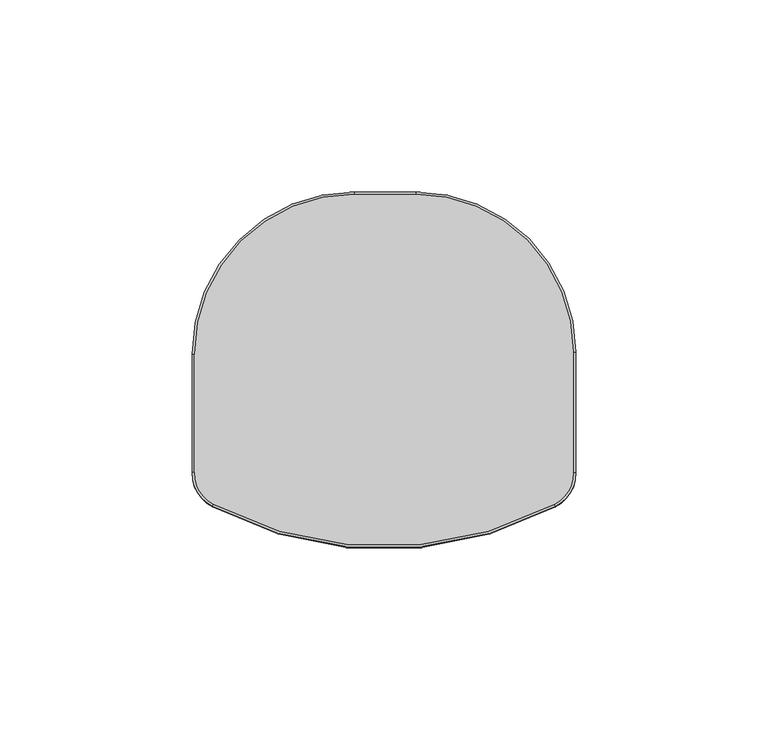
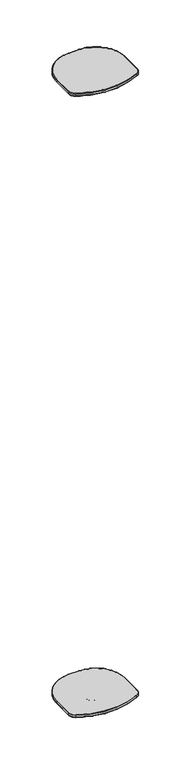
"""IFC4 building model written with IfcOpenShell, lengths in millimetres: proxy geometry, TS-C 50-1000_T-EN54 : TS-C 50-1000/T-EN54."""

import ifcopenshell
import ifcopenshell.guid

model = None  # the IFC model being written
_history = None  # IfcOwnerHistory: only IFC2X3 demands one
_inside = {}  # id of a spatial element -> (the spatial element, [elements in it])
_under = {}  # id of a project, library or spatial element -> (it, [spatial elements below it])
_declared = {}  # id of a project -> (the project, [libraries it declares])
_typed = {}  # id of a type object -> (the type object, [elements of that type])
_made_of = {}  # id of a material, layer set ... -> (it, [elements and type objects made of it])


def new_model(schema):
    """Start an empty IFC model of exactly this schema.

    Asked for "IFC4X3", IfcOpenShell would pick the latest addendum, in which some entities
    have other attributes; the version numbers below select the first issue.
    IFC2X3 requires an IfcOwnerHistory on every rooted entity: one is made here for all.
    """
    global model, _history
    if schema == "IFC4X3":
        model = ifcopenshell.file(schema_version=(4, 3, 0, 0))
    else:
        model = ifcopenshell.file(schema=schema)
    _inside.clear()
    _under.clear()
    _declared.clear()
    _typed.clear()
    _made_of.clear()
    _history = None
    if model.schema == "IFC2X3":
        org = make("IfcOrganization", Name="unknown")
        user = make(
            "IfcPersonAndOrganization",
            ThePerson=make("IfcPerson", FamilyName="unknown"),
            TheOrganization=org,
        )
        app = make(
            "IfcApplication",
            ApplicationDeveloper=org,
            Version="unknown",
            ApplicationFullName="unknown",
            ApplicationIdentifier="unknown",
        )
        _history = make(
            "IfcOwnerHistory",
            OwningUser=user,
            OwningApplication=app,
            ChangeAction="ADDED",
            CreationDate=0,
        )
    return model


def make(cls, **values):
    """One entity of the class cls with the attributes given. An attribute that is None is left unset."""
    return model.create_entity(
        cls, **{name: value for name, value in values.items() if value is not None}
    )


def rooted(cls, **values):
    """An entity with a GlobalId (a new one), such as an element, a storey or a relation."""
    return make(cls, GlobalId=ifcopenshell.guid.new(), OwnerHistory=_history, **values)


def si_unit(unit_type, name, prefix=None):
    """IfcSIUnit, for example si_unit("LENGTHUNIT", "METRE", prefix="MILLI")."""
    return make("IfcSIUnit", UnitType=unit_type, Prefix=prefix, Name=name)


def assignment(units):
    """IfcUnitAssignment: the units of a project."""
    return None if units is None else make("IfcUnitAssignment", Units=units)


def point(xyz):
    """IfcCartesianPoint."""
    return None if xyz is None else make("IfcCartesianPoint", Coordinates=xyz)


def direction(xyz):
    """IfcDirection."""
    return None if xyz is None else make("IfcDirection", DirectionRatios=xyz)


def frame(location, z_axis=None, x_axis=None):
    """IfcAxis2Placement3D, a coordinate frame: its origin and axes. An axis left out is left unset."""
    return make(
        "IfcAxis2Placement3D",
        Location=point(location),
        Axis=direction(z_axis),
        RefDirection=direction(x_axis),
    )


def origin():
    """The frame at (0, 0, 0) with its axes left unset."""
    return frame((0.0, 0.0, 0.0))


def place(relative_to, where):
    """IfcLocalPlacement: puts the frame where relative to a parent placement (None: the world)."""
    return make(
        "IfcLocalPlacement", PlacementRelTo=relative_to, RelativePlacement=where
    )


def context(
    kind, dimensions, precision=None, world=None, true_north=None, identifier=None
):
    """IfcGeometricRepresentationContext, for example the 3D "Model" context."""
    return make(
        "IfcGeometricRepresentationContext",
        ContextIdentifier=identifier,
        ContextType=kind,
        CoordinateSpaceDimension=dimensions,
        Precision=precision,
        WorldCoordinateSystem=world,
        TrueNorth=true_north,
    )


def project(units=None, contexts=None):
    """IfcProject with its units and contexts."""
    return rooted(
        "IfcProject",
        Name="project",
        RepresentationContexts=contexts,
        UnitsInContext=assignment(units),
    )


def spatial(cls, under=None, at=None, **own):
    """A site, building, storey or space (cls), placed at a placement, below another one or the project."""
    s = rooted(cls, ObjectPlacement=at, **own)
    if under is not None:
        _under.setdefault(under.id(), (under, []))[1].append(s)
    return s


def polyline(points):
    """IfcPolyline through the points."""
    return make("IfcPolyline", Points=[point(p) for p in points])


def circle_curve(where, radius):
    """IfcCircle in the frame where."""
    return make("IfcCircle", Position=where, Radius=radius)


def ellipse_curve(where, semi_axis1, semi_axis2):
    """IfcEllipse in the frame where."""
    return make(
        "IfcEllipse", Position=where, SemiAxis1=semi_axis1, SemiAxis2=semi_axis2
    )


def trimmed(basis, trim1, trim2, sense, master):
    """IfcTrimmedCurve: the piece of a basis curve between two trims."""
    return make(
        "IfcTrimmedCurve",
        BasisCurve=basis,
        Trim1=trim1,
        Trim2=trim2,
        SenseAgreement=sense,
        MasterRepresentation=master,
    )


def shape(context_of_items, identifier, shape_type, items):
    """IfcShapeRepresentation: the items that make up one representation, for example the "Body"."""
    return make(
        "IfcShapeRepresentation",
        ContextOfItems=context_of_items,
        RepresentationIdentifier=identifier,
        RepresentationType=shape_type,
        Items=items,
    )


def source(mapping_origin, context_of_items, identifier, shape_type, items):
    """IfcRepresentationMap: a shape defined once, which mapped items show again and again."""
    return make(
        "IfcRepresentationMap",
        MappingOrigin=mapping_origin,
        MappedRepresentation=shape(context_of_items, identifier, shape_type, items),
    )


def transform(
    local_origin,
    x_axis=None,
    y_axis=None,
    z_axis=None,
    scale=None,
    scale2=None,
    scale3=None,
    uniform=True,
):
    """IfcCartesianTransformationOperator3D, or its non-uniform kind. x_axis, y_axis, z_axis: its Axis1, 2, 3."""
    if uniform:
        return make(
            "IfcCartesianTransformationOperator3D",
            Axis1=direction(x_axis),
            Axis2=direction(y_axis),
            LocalOrigin=point(local_origin),
            Scale=scale,
            Axis3=direction(z_axis),
        )
    return make(
        "IfcCartesianTransformationOperator3DnonUniform",
        Axis1=direction(x_axis),
        Axis2=direction(y_axis),
        LocalOrigin=point(local_origin),
        Scale=scale,
        Axis3=direction(z_axis),
        Scale2=scale2,
        Scale3=scale3,
    )


def mapped(mapping_source, mapping_target):
    """IfcMappedItem: shows the shape of a source again, moved by a transform."""
    return make(
        "IfcMappedItem", MappingSource=mapping_source, MappingTarget=mapping_target
    )


def made_of(thing, what):
    """Note that an element or type object is made of a material, layer set ...; save() writes the relation."""
    if what is not None:
        _made_of.setdefault(what.id(), (what, []))[1].append(thing)
    return thing


def element(
    cls,
    number,
    at=None,
    inside=None,
    cuts=None,
    type_object=None,
    material=None,
    context=None,
    identifier="Body",
    shape_type=None,
    held_by="IfcProductDefinitionShape",
    body=None,
    shapes=None,
    **own,
):
    """One element of the class cls, such as IfcWall. Its Tag is "e" and its number.

    at: its placement. inside: the storey or other place that contains it. cuts: it is an
    opening in that element (IfcRelVoidsElement). A single representation is given by context,
    identifier, shape_type and body (its items); several are given by shapes. held_by: the class
    of the entity that holds the representations. save() writes the other relations.
    """
    e = rooted(cls, Tag="e%d" % number, ObjectPlacement=at, **own)
    if body is not None:
        shapes = [shape(context, identifier, shape_type, body)]
    if shapes is not None:
        e.Representation = make(held_by, Representations=shapes)
    if inside is not None:
        _inside.setdefault(inside.id(), (inside, []))[1].append(e)
    if cuts is not None:
        rooted(
            "IfcRelVoidsElement", RelatingBuildingElement=cuts, RelatedOpeningElement=e
        )
    if type_object is not None:
        _typed.setdefault(type_object.id(), (type_object, []))[1].append(e)
    return made_of(e, material)


def aggregate(whole, parts):
    """IfcRelAggregates: a whole, such as a stair, and the parts it consists of."""
    return rooted("IfcRelAggregates", RelatingObject=whole, RelatedObjects=parts)


def save(model, path):
    """Write the relations noted so far, then the file.

    IfcRelAggregates (storeys below a building ...), IfcRelContainedInSpatialStructure (elements
    in a storey), IfcRelDefinesByType, IfcRelAssociatesMaterial and IfcRelDeclares: one each for
    every whole, place, type object, material and project.
    """
    for whole, parts in _under.values():
        aggregate(whole, parts)
    for where, things in _inside.values():
        rooted(
            "IfcRelContainedInSpatialStructure",
            RelatedElements=things,
            RelatingStructure=where,
        )
    for kind, things in _typed.values():
        rooted("IfcRelDefinesByType", RelatedObjects=things, RelatingType=kind)
    for what, things in _made_of.values():
        rooted("IfcRelAssociatesMaterial", RelatedObjects=things, RelatingMaterial=what)
    for by, libraries in _declared.values():
        rooted("IfcRelDeclares", RelatingContext=by, RelatedDefinitions=libraries)
    model.write(path)


def plane_surface(at):
    """IfcPlane: the flat surface through the origin of the frame at, square to its z axis."""
    return make("IfcPlane", Position=at)


def cylinder_surface(at, radius):
    """IfcCylindricalSurface: all points at the distance radius from the z axis of the frame at."""
    return make("IfcCylindricalSurface", Position=at, Radius=radius)


def revolved_surface(curve, axis_point, axis_direction):
    """IfcSurfaceOfRevolution: the curve turned about the line through axis_point along axis_direction."""
    return make(
        "IfcSurfaceOfRevolution",
        SweptCurve=make("IfcArbitraryOpenProfileDef", ProfileType="CURVE", Curve=curve),
        AxisPosition=make("IfcAxis1Placement", Location=point(axis_point), Axis=direction(axis_direction)),
    )


def advanced_brep(points, edges, surfaces, faces):
    """IfcAdvancedBrep: a solid bounded by faces that lie on surfaces and meet in shared edges.

    An edge is (start, end): straight between two places in points (the first is 0);
    or (start, end, curve); or (start, end, curve, False) where it runs against its curve.
    A face is (place in surfaces, loops), or (place, loops, False) where it looks against
    its surface's normal. A loop lists edges by number (the first is 1), with a minus sign
    where the edge is run from its end to its start. The first loop is the outer one.
    """
    corners = [point(p) for p in points]
    vertices = [make("IfcVertexPoint", VertexGeometry=c) for c in corners]
    made = []
    for start, end, *more in edges:
        made.append(
            make(
                "IfcEdgeCurve",
                EdgeStart=vertices[start],
                EdgeEnd=vertices[end],
                EdgeGeometry=more[0] if more else make("IfcPolyline", Points=[corners[start], corners[end]]),
                SameSense=more[1] if len(more) > 1 else True,
            )
        )
    hull = []
    for where, loops, *sense in faces:
        bounds = []
        for j, loop in enumerate(loops):
            ring = [make("IfcOrientedEdge", EdgeElement=made[abs(k) - 1], Orientation=k > 0) for k in loop]
            bounds.append(
                make(
                    "IfcFaceOuterBound" if j == 0 else "IfcFaceBound",
                    Bound=make("IfcEdgeLoop", EdgeList=ring),
                    Orientation=True,
                )
            )
        hull.append(make("IfcAdvancedFace", Bounds=bounds, FaceSurface=surfaces[where], SameSense=sense[0] if sense else True))
    return make("IfcAdvancedBrep", Outer=make("IfcClosedShell", CfsFaces=hull))


def communication_devices_4087b9b7(model_context):
    return source(origin(), model_context, "Body", "AdvancedBrep", [
        advanced_brep(
        [(-7.7626041, 1.5, 8.4861854), (-49.99971, -40.7371059, 8.4861854), (-49.99971, -40.7371059, 11.4421964), (-7.7626041, 1.5, 11.4421964), (8.2345894, 1.5, 11.4421964), (8.2345894, 1.5, 8.4861854), (49.99971, -40.2651206, 11.4421964), (49.99971, -40.2651206, 8.4861854), (49.99971, -71.6195776, 11.4421964), (49.99971, -71.6195776, 8.4861854), (44.6610542, -80.4667167, 11.4421964), (44.6610542, -80.4667167, 8.4861854), (-44.6609866, -80.4670578, 11.4421964), (-44.6609866, -80.4670578, 8.4861854), (-49.99971, -71.6198831, 11.4421964), (-49.99971, -71.6198831, 8.4861854), (-49.4919104, -40.7371059, 11.949996), (-49.4919104, -71.6198831, 11.949996), (-44.4242872, -80.0177986, 11.949996), (44.4243513, -80.0174593, 11.949996), (49.4919104, -71.6195776, 11.949996), (49.4919104, -40.2651206, 11.949996), (8.2345894, 0.9922004, 11.949996), (-7.7626041, 0.9922004, 11.949996), (44.4111178, -79.9923424, 7.949996), (-44.4110539, -79.9926816, 7.949996), (-49.4635206, -71.6198831, 7.949996), (-49.4635206, -40.7371059, 7.949996), (-7.7626041, 0.9638106, 7.949996), (8.2345894, 0.9638106, 7.949996), (49.4635206, -40.2651206, 7.949996), (49.4635206, -71.6195776, 7.949996)],
        [
            (0, 1, circle_curve(frame((-7.7626041, -40.7371059, 8.4861854), z_axis=(0.0, 0.0, 1.0), x_axis=(-1.0, 0.0, 0.0)), 42.2371059)),
            (1, 2),
            (2, 3, circle_curve(frame((-7.7626041, -40.7371059, 11.4421964), z_axis=(0.0, 0.0, -1.0), x_axis=(-1.0, 0.0, 0.0)), 42.2371059)),
            (3, 0),
            (3, 4),
            (4, 5),
            (5, 0),
            (4, 6, circle_curve(frame((8.2345894, -40.2651206, 11.4421964), z_axis=(0.0, 0.0, -1.0), x_axis=(0.0, 1.0, 0.0)), 41.7651206)),
            (6, 7),
            (7, 5, circle_curve(frame((8.2345894, -40.2651206, 8.4861854), z_axis=(0.0, 0.0, 1.0), x_axis=(0.0, 1.0, 0.0)), 41.7651206)),
            (6, 8),
            (8, 9),
            (9, 7),
            (8, 10, circle_curve(frame((39.99971, -71.6195776, 11.4421964), z_axis=(0.0, 0.0, -1.0), x_axis=(1.0, 0.0, 0.0)), 10.0)),
            (10, 11),
            (11, 9, circle_curve(frame((39.99971, -71.6195776, 8.4861854), z_axis=(0.0, 0.0, 1.0), x_axis=(1.0, 0.0, 0.0)), 10.0)),
            (10, 12, circle_curve(frame((-0.0002899, 4.2996317, 11.4421964), z_axis=(0.0, 0.0, -1.0), x_axis=(0.46613441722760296, -0.8847139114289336, 0.0)), 95.8121573)),
            (12, 13),
            (13, 11, circle_curve(frame((-0.0002899, 4.2996317, 8.4861854), z_axis=(0.0, 0.0, 1.0), x_axis=(0.46613441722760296, -0.8847139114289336, 0.0)), 95.8121573)),
            (12, 14, circle_curve(frame((-39.99971, -71.6198831, 11.4421964), z_axis=(0.0, 0.0, -1.0), x_axis=(-0.4661276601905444, -0.8847174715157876, 0.0)), 10.0)),
            (14, 15),
            (15, 13, circle_curve(frame((-39.99971, -71.6198831, 8.4861854), z_axis=(0.0, 0.0, 1.0), x_axis=(-0.4661276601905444, -0.8847174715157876, 0.0)), 10.0)),
            (16, 17),
            (17, 18, circle_curve(frame((-39.99971, -71.6198831, 11.949996), z_axis=(0.0, 0.0, 1.0), x_axis=(-0.4661276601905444, -0.8847174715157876, 0.0)), 9.4922004)),
            (18, 19, circle_curve(frame((-0.0002899, 4.2996317, 11.949996), z_axis=(0.0, 0.0, 1.0), x_axis=(0.46613441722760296, -0.8847139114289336, 0.0)), 95.3043576)),
            (19, 20, circle_curve(frame((39.99971, -71.6195776, 11.949996), z_axis=(0.0, 0.0, 1.0), x_axis=(1.0, 0.0, 0.0)), 9.4922004)),
            (20, 21),
            (21, 22, circle_curve(frame((8.2345894, -40.2651206, 11.949996), z_axis=(0.0, 0.0, 1.0), x_axis=(0.0, 1.0, 0.0)), 41.257321)),
            (22, 23),
            (23, 16, circle_curve(frame((-7.7626041, -40.7371059, 11.949996), z_axis=(0.0, 0.0, 1.0), x_axis=(-1.0, 0.0, 0.0)), 41.7293063)),
            (1, 15),
            (14, 2),
            (24, 25, circle_curve(frame((-0.0002899, 4.2996317, 7.949996), z_axis=(0.0, 0.0, -1.0), x_axis=(0.46613441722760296, -0.8847139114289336, 0.0)), 95.2759678)),
            (25, 26, circle_curve(frame((-39.99971, -71.6198831, 7.949996), z_axis=(0.0, 0.0, -1.0), x_axis=(-0.4661276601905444, -0.8847174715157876, 0.0)), 9.4638106)),
            (26, 27),
            (27, 28, circle_curve(frame((-7.7626041, -40.7371059, 7.949996), z_axis=(0.0, 0.0, -1.0), x_axis=(-1.0, 0.0, 0.0)), 41.7009165)),
            (28, 29),
            (29, 30, circle_curve(frame((8.2345894, -40.2651206, 7.949996), z_axis=(0.0, 0.0, -1.0), x_axis=(0.0, 1.0, 0.0)), 41.2289312)),
            (30, 31),
            (31, 24, circle_curve(frame((39.99971, -71.6195776, 7.949996), z_axis=(0.0, 0.0, -1.0), x_axis=(1.0, 0.0, 0.0)), 9.4638106)),
            (2, 16, circle_curve(frame((-49.4919104, -40.7371059, 11.4421964), z_axis=(0.0, 1.0, 0.0), x_axis=(-1.0, 0.0, 0.0)), 0.5077996)),
            (23, 3, circle_curve(frame((-7.7626041, 0.9922004, 11.4421964), z_axis=(-1.0, 0.0, 0.0), x_axis=(0.0, 1.0, 0.0)), 0.5077996)),
            (0, 28, circle_curve(frame((-7.7626041, 0.9638106, 8.4861854), z_axis=(-1.0, 0.0, 0.0), x_axis=(0.0, 1.0, 0.0)), 0.5361894)),
            (27, 1, circle_curve(frame((-49.4635206, -40.7371059, 8.4861854), z_axis=(0.0, 1.0, 0.0), x_axis=(-1.0, 0.0, 0.0)), 0.5361894)),
            (22, 4, circle_curve(frame((8.2345894, 0.9922004, 11.4421964), z_axis=(-1.0, 0.0, 0.0), x_axis=(0.0, 1.0, 0.0)), 0.5077996)),
            (5, 29, circle_curve(frame((8.2345894, 0.9638106, 8.4861854), z_axis=(-1.0, 0.0, 0.0), x_axis=(0.0, 1.0, 0.0)), 0.5361894)),
            (21, 6, circle_curve(frame((49.4919104, -40.2651206, 11.4421964), z_axis=(0.0, 1.0, 0.0), x_axis=(1.0, 0.0, 0.0)), 0.5077996)),
            (7, 30, circle_curve(frame((49.4635206, -40.2651206, 8.4861854), z_axis=(0.0, 1.0, 0.0), x_axis=(1.0, 0.0, 0.0)), 0.5361894)),
            (20, 8, circle_curve(frame((49.4919104, -71.6195776, 11.4421964), z_axis=(0.0, 1.0, 0.0), x_axis=(1.0, 0.0, 0.0)), 0.5077996)),
            (9, 31, circle_curve(frame((49.4635206, -71.6195776, 8.4861854), z_axis=(0.0, 1.0, 0.0), x_axis=(1.0, 0.0, 0.0)), 0.5361894)),
            (19, 10, circle_curve(frame((44.4243513, -80.0174593, 11.4421964), z_axis=(0.884713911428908, 0.4661344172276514, 0.0), x_axis=(0.4661344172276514, -0.884713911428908, 0.0)), 0.5077996)),
            (11, 24, circle_curve(frame((44.4111178, -79.9923424, 8.4861854), z_axis=(0.8847139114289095, 0.4661344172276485, 0.0), x_axis=(0.4661344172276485, -0.8847139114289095, 0.0)), 0.5361894)),
            (18, 12, circle_curve(frame((-44.4242872, -80.0177986, 11.4421964), z_axis=(0.8847174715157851, -0.466127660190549, 0.0), x_axis=(-0.466127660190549, -0.8847174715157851, 0.0)), 0.5077996)),
            (13, 25, circle_curve(frame((-44.4110539, -79.9926816, 8.4861854), z_axis=(0.8847174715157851, -0.466127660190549, 0.0), x_axis=(-0.466127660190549, -0.8847174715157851, 0.0)), 0.5361894)),
            (17, 14, circle_curve(frame((-49.4919104, -71.6198831, 11.4421964), z_axis=(0.0, -1.0, 0.0), x_axis=(-1.0, 0.0, 0.0)), 0.5077996)),
            (15, 26, circle_curve(frame((-49.4635206, -71.6198831, 8.4861854), z_axis=(0.0, -1.0, 0.0), x_axis=(-1.0, 0.0, 0.0)), 0.5361894)),
        ],
        [
            cylinder_surface(frame((-7.7626041, -40.7371059, 0.0), z_axis=(0.0, 0.0, -1.0), x_axis=(-1.0, 0.0, 0.0)), 42.2371059),
            plane_surface(frame((-7.7626041, 1.5, 11.4421964), z_axis=(0.0, 1.0, 0.0), x_axis=(1.0, 0.0, 0.0))),
            cylinder_surface(frame((8.2345894, -40.2651206, 0.0), z_axis=(0.0, 0.0, -1.0), x_axis=(0.0, 1.0, 0.0)), 41.7651206),
            plane_surface(frame((49.99971, -40.2651206, 11.4421964), z_axis=(1.0, 0.0, 0.0), x_axis=(0.0, -1.0, 0.0))),
            cylinder_surface(frame((39.99971, -71.6195776, 0.0), z_axis=(0.0, 0.0, -1.0), x_axis=(1.0, 0.0, 0.0)), 10.0),
            cylinder_surface(frame((-0.0002899, 4.2996317, 0.0), z_axis=(0.0, 0.0, -1.0), x_axis=(0.46613441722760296, -0.8847139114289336, 0.0)), 95.8121573),
            cylinder_surface(frame((-39.99971, -71.6198831, 0.0), z_axis=(0.0, 0.0, -1.0), x_axis=(-0.4661276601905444, -0.8847174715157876, 0.0)), 10.0),
            plane_surface(frame((-48.0983774, -71.6198831, 11.949996), z_axis=(0.0, 0.0, 1.0), x_axis=(0.0, 1.0, 0.0))),
            plane_surface(frame((-49.99971, -71.6198831, 11.4421964), z_axis=(-1.0, 0.0, 0.0), x_axis=(0.0, 1.0, 0.0))),
            plane_surface(frame((-49.4635206, -71.6198831, 7.949996), z_axis=(0.0, 0.0, -1.0), x_axis=(0.0, 1.0, 0.0))),
            revolved_surface(trimmed(ellipse_curve(frame((-49.4919104, -40.7371059, 11.4421964), z_axis=(0.0, -1.0, 0.0), x_axis=(-1.0, 0.0, 0.0)), 0.5077996, 0.5077996), [point((-49.4919104, -40.7371059, 11.949996))], [point((-49.99971, -40.7371059, 11.4421964))], True, "CARTESIAN"), (-7.7626041, -40.7371059, 0.0), (0.0, 0.0, -1.0)),
            revolved_surface(trimmed(ellipse_curve(frame((-49.4635206, -40.7371059, 8.4861854), z_axis=(0.0, -1.0, 0.0), x_axis=(-1.0, 0.0, 0.0)), 0.5361894, 0.5361894), [point((-49.99971, -40.7371059, 8.4861854))], [point((-49.4635206, -40.7371059, 7.949996))], True, "CARTESIAN"), (-7.7626041, -40.7371059, 0.0), (0.0, 0.0, -1.0)),
            cylinder_surface(frame((-7.7626041, 0.9922004, 11.4421964), z_axis=(-1.0, 0.0, 0.0), x_axis=(0.0, 1.0, 0.0)), 0.5077996),
            cylinder_surface(frame((-7.7626041, 0.9638106, 8.4861854), z_axis=(-1.0, 0.0, 0.0), x_axis=(0.0, 1.0, 0.0)), 0.5361894),
            revolved_surface(trimmed(ellipse_curve(frame((8.2345894, 0.9922004, 11.4421964), z_axis=(-1.0, 0.0, 0.0), x_axis=(0.0, 1.0, 0.0)), 0.5077996, 0.5077996), [point((8.2345894, 0.9922004, 11.949996))], [point((8.2345894, 1.5, 11.4421964))], True, "CARTESIAN"), (8.2345894, -40.2651206, 0.0), (0.0, 0.0, -1.0)),
            revolved_surface(trimmed(ellipse_curve(frame((8.2345894, 0.9638106, 8.4861854), z_axis=(-1.0, 0.0, 0.0), x_axis=(0.0, 1.0, 0.0)), 0.5361894, 0.5361894), [point((8.2345894, 1.5, 8.4861854))], [point((8.2345894, 0.9638106, 7.949996))], True, "CARTESIAN"), (8.2345894, -40.2651206, 0.0), (0.0, 0.0, -1.0)),
            cylinder_surface(frame((49.4919104, -40.2651206, 11.4421964), z_axis=(0.0, 1.0, 0.0), x_axis=(1.0, 0.0, 0.0)), 0.5077996),
            cylinder_surface(frame((49.4635206, -40.2651206, 8.4861854), z_axis=(0.0, 1.0, 0.0), x_axis=(1.0, 0.0, 0.0)), 0.5361894),
            revolved_surface(trimmed(ellipse_curve(frame((49.4919104, -71.6195776, 11.4421964), z_axis=(0.0, 1.0, 0.0), x_axis=(1.0, 0.0, 0.0)), 0.5077996, 0.5077996), [point((49.4919104, -71.6195776, 11.949996))], [point((49.99971, -71.6195776, 11.4421964))], True, "CARTESIAN"), (39.99971, -71.6195776, 0.0), (0.0, 0.0, -1.0)),
            revolved_surface(trimmed(ellipse_curve(frame((49.4635206, -71.6195776, 8.4861854), z_axis=(0.0, 1.0, 0.0), x_axis=(1.0, 0.0, 0.0)), 0.5361894, 0.5361894), [point((49.99971, -71.6195776, 8.4861854))], [point((49.4635206, -71.6195776, 7.949996))], True, "CARTESIAN"), (39.99971, -71.6195776, 0.0), (0.0, 0.0, -1.0)),
            revolved_surface(trimmed(ellipse_curve(frame((44.4243513, -80.0174593, 11.4421964), z_axis=(0.8847139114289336, 0.46613441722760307, 0.0), x_axis=(0.46613441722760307, -0.8847139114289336, 0.0)), 0.5077996, 0.5077996), [point((44.4243513, -80.0174593, 11.949996))], [point((44.6610542, -80.4667167, 11.4421964))], True, "CARTESIAN"), (-0.0002899, 4.2996317, 0.0), (0.0, 0.0, -1.0)),
            revolved_surface(trimmed(ellipse_curve(frame((44.4111178, -79.9923424, 8.4861854), z_axis=(0.8847139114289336, 0.46613441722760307, 0.0), x_axis=(0.46613441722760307, -0.8847139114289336, 0.0)), 0.5361894, 0.5361894), [point((44.6610542, -80.4667167, 8.4861854))], [point((44.4111178, -79.9923424, 7.949996))], True, "CARTESIAN"), (-0.0002899, 4.2996317, 0.0), (0.0, 0.0, -1.0)),
            revolved_surface(trimmed(ellipse_curve(frame((-44.4242872, -80.0177986, 11.4421964), z_axis=(0.8847174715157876, -0.46612766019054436, 0.0), x_axis=(-0.46612766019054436, -0.8847174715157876, 0.0)), 0.5077996, 0.5077996), [point((-44.4242872, -80.0177986, 11.949996))], [point((-44.6609866, -80.4670578, 11.4421964))], True, "CARTESIAN"), (-39.99971, -71.6198831, 0.0), (0.0, 0.0, -1.0)),
            revolved_surface(trimmed(ellipse_curve(frame((-44.4110539, -79.9926816, 8.4861854), z_axis=(0.8847174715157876, -0.46612766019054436, 0.0), x_axis=(-0.46612766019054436, -0.8847174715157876, 0.0)), 0.5361894, 0.5361894), [point((-44.6609866, -80.4670578, 8.4861854))], [point((-44.4110539, -79.9926816, 7.949996))], True, "CARTESIAN"), (-39.99971, -71.6198831, 0.0), (0.0, 0.0, -1.0)),
            cylinder_surface(frame((-49.4919104, -71.6198831, 11.4421964), z_axis=(0.0, -1.0, 0.0), x_axis=(-1.0, 0.0, 0.0)), 0.5077996),
            cylinder_surface(frame((-49.4635206, -71.6198831, 8.4861854), z_axis=(0.0, -1.0, 0.0), x_axis=(-1.0, 0.0, 0.0)), 0.5361894),
        ],
        [
            (0, [[1, 2, 3, 4]]),
            (1, [[-4, 5, 6, 7]]),
            (2, [[-6, 8, 9, 10]]),
            (3, [[-9, 11, 12, 13]]),
            (4, [[-12, 14, 15, 16]]),
            (5, [[-15, 17, 18, 19]]),
            (6, [[-18, 20, 21, 22]]),
            (7, [[23, 24, 25, 26, 27, 28, 29, 30]]),
            (8, [[-2, 31, -21, 32]]),
            (9, [[33, 34, 35, 36, 37, 38, 39, 40]]),
            (10, [[-3, 41, -30, 42]]),
            (11, [[-1, 43, -36, 44]]),
            (12, [[-5, -42, -29, 45]]),
            (13, [[-7, 46, -37, -43]]),
            (14, [[-8, -45, -28, 47]]),
            (15, [[-10, 48, -38, -46]]),
            (16, [[-11, -47, -27, 49]]),
            (17, [[-13, 50, -39, -48]]),
            (18, [[-14, -49, -26, 51]]),
            (19, [[-16, 52, -40, -50]]),
            (20, [[-17, -51, -25, 53]]),
            (21, [[-19, 54, -33, -52]]),
            (22, [[-20, -53, -24, 55]]),
            (23, [[-22, 56, -34, -54]]),
            (24, [[-23, -41, -32, -55]]),
            (25, [[-31, -44, -35, -56]]),
        ],
    ),
        advanced_brep(
        [(-7.7626041, 1.5, 965.6021766), (-49.99971, -40.7371059, 965.6021766), (-49.4635206, -40.7371059, 966.138366), (-7.7626041, 0.9638106, 966.138366), (-7.7626041, 1.5, 962.6461656), (-49.99971, -40.7371059, 962.6461656), (-7.7626041, 0.9922004, 962.138366), (-49.4919104, -40.7371059, 962.138366), (8.2345894, 0.9638106, 966.138366), (8.2345894, 1.5, 965.6021766), (8.2345894, 1.5, 962.6461656), (8.2345894, 0.9922004, 962.138366), (49.4635206, -40.2651206, 966.138366), (49.99971, -40.2651206, 965.6021766), (49.99971, -40.2651206, 962.6461656), (49.4919104, -40.2651206, 962.138366), (49.4635206, -71.6195776, 966.138366), (49.99971, -71.6195776, 965.6021766), (49.99971, -71.6195776, 962.6461656), (49.4919104, -71.6195776, 962.138366), (44.4111178, -79.9923424, 966.138366), (44.6610542, -80.4667167, 965.6021766), (44.6610542, -80.4667167, 962.6461656), (44.4243513, -80.0174593, 962.138366), (-44.4110539, -79.9926816, 966.138366), (-44.6609866, -80.4670578, 965.6021766), (-44.6609866, -80.4670578, 962.6461656), (-44.4242872, -80.0177986, 962.138366), (-49.4635206, -71.6198831, 966.138366), (-49.99971, -71.6198831, 965.6021766), (-49.99971, -71.6198831, 962.6461656), (-49.4919104, -71.6198831, 962.138366)],
        [
            (0, 1, circle_curve(frame((-7.7626041, -40.7371059, 965.6021766), z_axis=(0.0, 0.0, 1.0), x_axis=(-1.0, 0.0, 0.0)), 42.2371059)),
            (1, 2, circle_curve(frame((-49.4635206, -40.7371059, 965.6021766), z_axis=(0.0, 1.0, 0.0), x_axis=(-1.0, 0.0, 0.0)), 0.5361894)),
            (2, 3, circle_curve(frame((-7.7626041, -40.7371059, 966.138366), z_axis=(0.0, 0.0, -1.0), x_axis=(-1.0, 0.0, 0.0)), 41.7009165)),
            (3, 0, circle_curve(frame((-7.7626041, 0.9638106, 965.6021766), z_axis=(-1.0, 0.0, 0.0), x_axis=(0.0, 1.0, 0.0)), 0.5361894)),
            (0, 4),
            (4, 5, circle_curve(frame((-7.7626041, -40.7371059, 962.6461656), z_axis=(0.0, 0.0, 1.0), x_axis=(-1.0, 0.0, 0.0)), 42.2371059)),
            (5, 1),
            (4, 6, circle_curve(frame((-7.7626041, 0.9922004, 962.6461656), z_axis=(-1.0, 0.0, 0.0), x_axis=(0.0, 1.0, 0.0)), 0.5077996)),
            (6, 7, circle_curve(frame((-7.7626041, -40.7371059, 962.138366), z_axis=(0.0, 0.0, 1.0), x_axis=(-1.0, 0.0, 0.0)), 41.7293063)),
            (7, 5, circle_curve(frame((-49.4919104, -40.7371059, 962.6461656), z_axis=(0.0, 1.0, 0.0), x_axis=(-1.0, 0.0, 0.0)), 0.5077996)),
            (3, 8),
            (8, 9, circle_curve(frame((8.2345894, 0.9638106, 965.6021766), z_axis=(-1.0, 0.0, 0.0), x_axis=(0.0, 1.0, 0.0)), 0.5361894)),
            (9, 0),
            (9, 10),
            (10, 4),
            (10, 11, circle_curve(frame((8.2345894, 0.9922004, 962.6461656), z_axis=(-1.0, 0.0, 0.0), x_axis=(0.0, 1.0, 0.0)), 0.5077996)),
            (11, 6),
            (8, 12, circle_curve(frame((8.2345894, -40.2651206, 966.138366), z_axis=(0.0, 0.0, -1.0), x_axis=(0.0, 1.0, 0.0)), 41.2289312)),
            (12, 13, circle_curve(frame((49.4635206, -40.2651206, 965.6021766), z_axis=(0.0, 1.0, 0.0), x_axis=(1.0, 0.0, 0.0)), 0.5361894)),
            (13, 9, circle_curve(frame((8.2345894, -40.2651206, 965.6021766), z_axis=(0.0, 0.0, 1.0), x_axis=(0.0, 1.0, 0.0)), 41.7651206)),
            (13, 14),
            (14, 10, circle_curve(frame((8.2345894, -40.2651206, 962.6461656), z_axis=(0.0, 0.0, 1.0), x_axis=(0.0, 1.0, 0.0)), 41.7651206)),
            (14, 15, circle_curve(frame((49.4919104, -40.2651206, 962.6461656), z_axis=(0.0, 1.0, 0.0), x_axis=(1.0, 0.0, 0.0)), 0.5077996)),
            (15, 11, circle_curve(frame((8.2345894, -40.2651206, 962.138366), z_axis=(0.0, 0.0, 1.0), x_axis=(0.0, 1.0, 0.0)), 41.257321)),
            (12, 16),
            (16, 17, circle_curve(frame((49.4635206, -71.6195776, 965.6021766), z_axis=(0.0, 1.0, 0.0), x_axis=(1.0, 0.0, 0.0)), 0.5361894)),
            (17, 13),
            (17, 18),
            (18, 14),
            (18, 19, circle_curve(frame((49.4919104, -71.6195776, 962.6461656), z_axis=(0.0, 1.0, 0.0), x_axis=(1.0, 0.0, 0.0)), 0.5077996)),
            (19, 15),
            (16, 20, circle_curve(frame((39.99971, -71.6195776, 966.138366), z_axis=(0.0, 0.0, -1.0), x_axis=(1.0, 0.0, 0.0)), 9.4638106)),
            (20, 21, circle_curve(frame((44.4111178, -79.9923424, 965.6021766), z_axis=(0.884713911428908, 0.4661344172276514, 0.0), x_axis=(0.4661344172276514, -0.884713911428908, 0.0)), 0.5361894)),
            (21, 17, circle_curve(frame((39.99971, -71.6195776, 965.6021766), z_axis=(0.0, 0.0, 1.0), x_axis=(1.0, 0.0, 0.0)), 10.0)),
            (21, 22),
            (22, 18, circle_curve(frame((39.99971, -71.6195776, 962.6461656), z_axis=(0.0, 0.0, 1.0), x_axis=(1.0, 0.0, 0.0)), 10.0)),
            (22, 23, circle_curve(frame((44.4243513, -80.0174593, 962.6461656), z_axis=(0.8847139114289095, 0.4661344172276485, 0.0), x_axis=(0.4661344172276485, -0.8847139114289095, 0.0)), 0.5077996)),
            (23, 19, circle_curve(frame((39.99971, -71.6195776, 962.138366), z_axis=(0.0, 0.0, 1.0), x_axis=(1.0, 0.0, 0.0)), 9.4922004)),
            (20, 24, circle_curve(frame((-0.0002899, 4.2996317, 966.138366), z_axis=(0.0, 0.0, -1.0), x_axis=(0.46613441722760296, -0.8847139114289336, 0.0)), 95.2759678)),
            (24, 25, circle_curve(frame((-44.4110539, -79.9926816, 965.6021766), z_axis=(0.8847174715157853, -0.46612766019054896, 0.0), x_axis=(-0.46612766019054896, -0.8847174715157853, 0.0)), 0.5361894)),
            (25, 21, circle_curve(frame((-0.0002899, 4.2996317, 965.6021766), z_axis=(0.0, 0.0, 1.0), x_axis=(0.46613441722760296, -0.8847139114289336, 0.0)), 95.8121573)),
            (25, 26),
            (26, 22, circle_curve(frame((-0.0002899, 4.2996317, 962.6461656), z_axis=(0.0, 0.0, 1.0), x_axis=(0.46613441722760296, -0.8847139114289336, 0.0)), 95.8121573)),
            (26, 27, circle_curve(frame((-44.4242872, -80.0177986, 962.6461656), z_axis=(0.8847174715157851, -0.466127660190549, 0.0), x_axis=(-0.466127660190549, -0.8847174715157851, 0.0)), 0.5077996)),
            (27, 23, circle_curve(frame((-0.0002899, 4.2996317, 962.138366), z_axis=(0.0, 0.0, 1.0), x_axis=(0.46613441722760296, -0.8847139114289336, 0.0)), 95.3043576)),
            (24, 28, circle_curve(frame((-39.99971, -71.6198831, 966.138366), z_axis=(0.0, 0.0, -1.0), x_axis=(-0.4661276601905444, -0.8847174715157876, 0.0)), 9.4638106)),
            (28, 29, circle_curve(frame((-49.4635206, -71.6198831, 965.6021766), z_axis=(0.0, -1.0, 0.0), x_axis=(-1.0, 0.0, 0.0)), 0.5361894)),
            (29, 25, circle_curve(frame((-39.99971, -71.6198831, 965.6021766), z_axis=(0.0, 0.0, 1.0), x_axis=(-0.4661276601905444, -0.8847174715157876, 0.0)), 10.0)),
            (29, 30),
            (30, 26, circle_curve(frame((-39.99971, -71.6198831, 962.6461656), z_axis=(0.0, 0.0, 1.0), x_axis=(-0.4661276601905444, -0.8847174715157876, 0.0)), 10.0)),
            (30, 31, circle_curve(frame((-49.4919104, -71.6198831, 962.6461656), z_axis=(0.0, -1.0, 0.0), x_axis=(-1.0, 0.0, 0.0)), 0.5077996)),
            (31, 27, circle_curve(frame((-39.99971, -71.6198831, 962.138366), z_axis=(0.0, 0.0, 1.0), x_axis=(-0.4661276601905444, -0.8847174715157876, 0.0)), 9.4922004)),
            (2, 28),
            (1, 29),
            (5, 30),
            (7, 31),
        ],
        [
            revolved_surface(trimmed(ellipse_curve(frame((-49.4635206, -40.7371059, 965.6021766), z_axis=(0.0, -1.0, 0.0), x_axis=(-1.0, 0.0, 0.0)), 0.5361894, 0.5361894), [point((-49.4635206, -40.7371059, 966.138366))], [point((-49.99971, -40.7371059, 965.6021766))], True, "CARTESIAN"), (-7.7626041, -40.7371059, 0.0), (0.0, 0.0, -1.0)),
            cylinder_surface(frame((-7.7626041, -40.7371059, 0.0), z_axis=(0.0, 0.0, -1.0), x_axis=(-1.0, 0.0, 0.0)), 42.2371059),
            revolved_surface(trimmed(ellipse_curve(frame((-49.4919104, -40.7371059, 962.6461656), z_axis=(0.0, -1.0, 0.0), x_axis=(-1.0, 0.0, 0.0)), 0.5077996, 0.5077996), [point((-49.99971, -40.7371059, 962.6461656))], [point((-49.4919104, -40.7371059, 962.138366))], True, "CARTESIAN"), (-7.7626041, -40.7371059, 0.0), (0.0, 0.0, -1.0)),
            cylinder_surface(frame((-7.7626041, 0.9638106, 965.6021766), z_axis=(-1.0, 0.0, 0.0), x_axis=(0.0, 1.0, 0.0)), 0.5361894),
            plane_surface(frame((-7.7626041, 1.5, 965.6021766), z_axis=(0.0, 1.0, 0.0), x_axis=(1.0, 0.0, 0.0))),
            cylinder_surface(frame((-7.7626041, 0.9922004, 962.6461656), z_axis=(-1.0, 0.0, 0.0), x_axis=(0.0, 1.0, 0.0)), 0.5077996),
            revolved_surface(trimmed(ellipse_curve(frame((8.2345894, 0.9638106, 965.6021766), z_axis=(-1.0, 0.0, 0.0), x_axis=(0.0, 1.0, 0.0)), 0.5361894, 0.5361894), [point((8.2345894, 0.9638106, 966.138366))], [point((8.2345894, 1.5, 965.6021766))], True, "CARTESIAN"), (8.2345894, -40.2651206, 0.0), (0.0, 0.0, -1.0)),
            cylinder_surface(frame((8.2345894, -40.2651206, 0.0), z_axis=(0.0, 0.0, -1.0), x_axis=(0.0, 1.0, 0.0)), 41.7651206),
            revolved_surface(trimmed(ellipse_curve(frame((8.2345894, 0.9922004, 962.6461656), z_axis=(-1.0, 0.0, 0.0), x_axis=(0.0, 1.0, 0.0)), 0.5077996, 0.5077996), [point((8.2345894, 1.5, 962.6461656))], [point((8.2345894, 0.9922004, 962.138366))], True, "CARTESIAN"), (8.2345894, -40.2651206, 0.0), (0.0, 0.0, -1.0)),
            cylinder_surface(frame((49.4635206, -40.2651206, 965.6021766), z_axis=(0.0, 1.0, 0.0), x_axis=(1.0, 0.0, 0.0)), 0.5361894),
            plane_surface(frame((49.99971, -40.2651206, 965.6021766), z_axis=(1.0, 0.0, 0.0), x_axis=(0.0, -1.0, 0.0))),
            cylinder_surface(frame((49.4919104, -40.2651206, 962.6461656), z_axis=(0.0, 1.0, 0.0), x_axis=(1.0, 0.0, 0.0)), 0.5077996),
            revolved_surface(trimmed(ellipse_curve(frame((49.4635206, -71.6195776, 965.6021766), z_axis=(0.0, 1.0, 0.0), x_axis=(1.0, 0.0, 0.0)), 0.5361894, 0.5361894), [point((49.4635206, -71.6195776, 966.138366))], [point((49.99971, -71.6195776, 965.6021766))], True, "CARTESIAN"), (39.99971, -71.6195776, 0.0), (0.0, 0.0, -1.0)),
            cylinder_surface(frame((39.99971, -71.6195776, 0.0), z_axis=(0.0, 0.0, -1.0), x_axis=(1.0, 0.0, 0.0)), 10.0),
            revolved_surface(trimmed(ellipse_curve(frame((49.4919104, -71.6195776, 962.6461656), z_axis=(0.0, 1.0, 0.0), x_axis=(1.0, 0.0, 0.0)), 0.5077996, 0.5077996), [point((49.99971, -71.6195776, 962.6461656))], [point((49.4919104, -71.6195776, 962.138366))], True, "CARTESIAN"), (39.99971, -71.6195776, 0.0), (0.0, 0.0, -1.0)),
            revolved_surface(trimmed(ellipse_curve(frame((44.4111178, -79.9923424, 965.6021766), z_axis=(0.8847139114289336, 0.46613441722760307, 0.0), x_axis=(0.46613441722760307, -0.8847139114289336, 0.0)), 0.5361894, 0.5361894), [point((44.4111178, -79.9923424, 966.138366))], [point((44.6610542, -80.4667167, 965.6021766))], True, "CARTESIAN"), (-0.0002899, 4.2996317, 0.0), (0.0, 0.0, -1.0)),
            cylinder_surface(frame((-0.0002899, 4.2996317, 0.0), z_axis=(0.0, 0.0, -1.0), x_axis=(0.46613441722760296, -0.8847139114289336, 0.0)), 95.8121573),
            revolved_surface(trimmed(ellipse_curve(frame((44.4243513, -80.0174593, 962.6461656), z_axis=(0.8847139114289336, 0.46613441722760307, 0.0), x_axis=(0.46613441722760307, -0.8847139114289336, 0.0)), 0.5077996, 0.5077996), [point((44.6610542, -80.4667167, 962.6461656))], [point((44.4243513, -80.0174593, 962.138366))], True, "CARTESIAN"), (-0.0002899, 4.2996317, 0.0), (0.0, 0.0, -1.0)),
            revolved_surface(trimmed(ellipse_curve(frame((-44.4110539, -79.9926816, 965.6021766), z_axis=(0.8847174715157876, -0.46612766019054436, 0.0), x_axis=(-0.46612766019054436, -0.8847174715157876, 0.0)), 0.5361894, 0.5361894), [point((-44.4110539, -79.9926816, 966.138366))], [point((-44.6609866, -80.4670578, 965.6021766))], True, "CARTESIAN"), (-39.99971, -71.6198831, 0.0), (0.0, 0.0, -1.0)),
            cylinder_surface(frame((-39.99971, -71.6198831, 0.0), z_axis=(0.0, 0.0, -1.0), x_axis=(-0.4661276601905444, -0.8847174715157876, 0.0)), 10.0),
            revolved_surface(trimmed(ellipse_curve(frame((-44.4242872, -80.0177986, 962.6461656), z_axis=(0.8847174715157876, -0.46612766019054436, 0.0), x_axis=(-0.46612766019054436, -0.8847174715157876, 0.0)), 0.5077996, 0.5077996), [point((-44.6609866, -80.4670578, 962.6461656))], [point((-44.4242872, -80.0177986, 962.138366))], True, "CARTESIAN"), (-39.99971, -71.6198831, 0.0), (0.0, 0.0, -1.0)),
            plane_surface(frame((-48.0983774, -71.6198831, 966.138366), z_axis=(0.0, 0.0, 1.0), x_axis=(0.0, 1.0, 0.0))),
            cylinder_surface(frame((-49.4635206, -71.6198831, 965.6021766), z_axis=(0.0, -1.0, 0.0), x_axis=(-1.0, 0.0, 0.0)), 0.5361894),
            plane_surface(frame((-49.99971, -71.6198831, 965.6021766), z_axis=(-1.0, 0.0, 0.0), x_axis=(0.0, 1.0, 0.0))),
            cylinder_surface(frame((-49.4919104, -71.6198831, 962.6461656), z_axis=(0.0, -1.0, 0.0), x_axis=(-1.0, 0.0, 0.0)), 0.5077996),
            plane_surface(frame((-49.4919104, -71.6198831, 962.138366), z_axis=(0.0, 0.0, -1.0), x_axis=(0.0, 1.0, 0.0))),
        ],
        [
            (0, [[1, 2, 3, 4]]),
            (1, [[-1, 5, 6, 7]]),
            (2, [[-6, 8, 9, 10]]),
            (3, [[-4, 11, 12, 13]]),
            (4, [[-5, -13, 14, 15]]),
            (5, [[-8, -15, 16, 17]]),
            (6, [[-12, 18, 19, 20]]),
            (7, [[-14, -20, 21, 22]]),
            (8, [[-16, -22, 23, 24]]),
            (9, [[-19, 25, 26, 27]]),
            (10, [[-21, -27, 28, 29]]),
            (11, [[-23, -29, 30, 31]]),
            (12, [[-26, 32, 33, 34]]),
            (13, [[-28, -34, 35, 36]]),
            (14, [[-30, -36, 37, 38]]),
            (15, [[-33, 39, 40, 41]]),
            (16, [[-35, -41, 42, 43]]),
            (17, [[-37, -43, 44, 45]]),
            (18, [[-40, 46, 47, 48]]),
            (19, [[-42, -48, 49, 50]]),
            (20, [[-44, -50, 51, 52]]),
            (21, [[-3, 53, -46, -39, -32, -25, -18, -11]]),
            (22, [[-2, 54, -47, -53]]),
            (23, [[-7, 55, -49, -54]]),
            (24, [[-10, 56, -51, -55]]),
            (25, [[-9, -17, -24, -31, -38, -45, -52, -56]]),
        ],
    ),
        advanced_brep(
        [(8.2401398, -42.96875, 7.949996), (-8.2401398, -42.96875, 7.949996), (0.0, -42.96875, 7.949996), (8.2401398, -42.96875, 6.851348), (-8.2401398, -42.96875, 6.851348), (8.0745091, -42.96875, 6.0844144), (-8.0745091, -42.96875, 6.0844144), (7.6798654, -42.96875, 5.2133531), (-7.6798654, -42.96875, 5.2133531), (7.4956938, -42.96875, 4.3605677), (-7.4956938, -42.96875, 4.3605677), (7.4956938, -42.96875, 1.1570894), (-7.4956938, -42.96875, 1.1570894), (6.3386044, -42.96875, 0.0), (-6.3386044, -42.96875, 0.0), (0.0, -42.96875, 0.0)],
        [
            (0, 1, circle_curve(frame((0.0, -42.96875, 7.949996), z_axis=(0.0, 0.0, 1.0), x_axis=(-1.0, 0.0, 0.0)), 8.2401398)),
            (1, 2),
            (2, 0),
            (1, 0, circle_curve(frame((0.0, -42.96875, 7.949996), z_axis=(0.0, 0.0, 1.0), x_axis=(-1.0, 0.0, 0.0)), 8.2401398)),
            (3, 4, circle_curve(frame((0.0, -42.96875, 6.851348), z_axis=(0.0, 0.0, 1.0), x_axis=(-1.0, 0.0, 0.0)), 8.2401398)),
            (4, 1),
            (0, 3),
            (4, 3, circle_curve(frame((0.0, -42.96875, 6.851348), z_axis=(0.0, 0.0, 1.0), x_axis=(-1.0, 0.0, 0.0)), 8.2401398)),
            (5, 6, circle_curve(frame((0.0, -42.96875, 6.0844144), z_axis=(0.0, 0.0, 1.0), x_axis=(-1.0, 0.0, 0.0)), 8.0745091)),
            (6, 4, circle_curve(frame((-6.3817258, -42.96875, 6.851348), z_axis=(0.0, 1.0, 0.0), x_axis=(1.0, 0.0, 0.0)), 1.858414)),
            (3, 5, circle_curve(frame((6.3817258, -42.96875, 6.851348), z_axis=(0.0, 1.0, 0.0), x_axis=(-1.0, 0.0, 0.0)), 1.858414)),
            (6, 5, circle_curve(frame((0.0, -42.96875, 6.0844144), z_axis=(0.0, 0.0, 1.0), x_axis=(-1.0, 0.0, 0.0)), 8.0745091)),
            (7, 8, circle_curve(frame((0.0, -42.96875, 5.2133531), z_axis=(0.0, 0.0, 1.0), x_axis=(-1.0, 0.0, 0.0)), 7.6798654)),
            (8, 6),
            (5, 7),
            (8, 7, circle_curve(frame((0.0, -42.96875, 5.2133531), z_axis=(0.0, 0.0, 1.0), x_axis=(-1.0, 0.0, 0.0)), 7.6798654)),
            (9, 10, circle_curve(frame((0.0, -42.96875, 4.3605677), z_axis=(0.0, 0.0, 1.0), x_axis=(-1.0, 0.0, 0.0)), 7.4956938)),
            (10, 8, circle_curve(frame((-9.5621413, -42.96875, 4.3605677), z_axis=(0.0, -1.0, 0.0), x_axis=(1.0, 0.0, 0.0)), 2.0664475)),
            (7, 9, circle_curve(frame((9.5621413, -42.96875, 4.3605677), z_axis=(0.0, -1.0, 0.0), x_axis=(-1.0, 0.0, 0.0)), 2.0664475)),
            (10, 9, circle_curve(frame((0.0, -42.96875, 4.3605677), z_axis=(0.0, 0.0, 1.0), x_axis=(-1.0, 0.0, 0.0)), 7.4956938)),
            (11, 12, circle_curve(frame((0.0, -42.96875, 1.1570894), z_axis=(0.0, 0.0, 1.0), x_axis=(-1.0, 0.0, 0.0)), 7.4956938)),
            (12, 10),
            (9, 11),
            (12, 11, circle_curve(frame((0.0, -42.96875, 1.1570894), z_axis=(0.0, 0.0, 1.0), x_axis=(-1.0, 0.0, 0.0)), 7.4956938)),
            (13, 14, circle_curve(frame((0.0, -42.96875, 0.0), z_axis=(0.0, 0.0, 1.0), x_axis=(-1.0, 0.0, 0.0)), 6.3386044)),
            (14, 12, circle_curve(frame((-6.3386044, -42.96875, 1.1570894), z_axis=(0.0, 1.0, 0.0), x_axis=(1.0, 0.0, 0.0)), 1.1570894)),
            (11, 13, circle_curve(frame((6.3386044, -42.96875, 1.1570894), z_axis=(0.0, 1.0, 0.0), x_axis=(-1.0, 0.0, 0.0)), 1.1570894)),
            (14, 13, circle_curve(frame((0.0, -42.96875, 0.0), z_axis=(0.0, 0.0, 1.0), x_axis=(-1.0, 0.0, 0.0)), 6.3386044)),
            (15, 14),
            (13, 15),
        ],
        [
            plane_surface(frame((0.0, -42.96875, 7.949996), z_axis=(0.0, 0.0, 1.0), x_axis=(-1.0, 0.0, 0.0))),
            cylinder_surface(frame((0.0, -42.96875, 6.8507462), z_axis=(0.0, 0.0, -1.0), x_axis=(-1.0, 0.0, 0.0)), 8.2401398),
            revolved_surface(trimmed(ellipse_curve(frame((-6.3817258, -42.96875, 6.851348), z_axis=(0.0, -1.0, 0.0), x_axis=(1.0, 0.0, 0.0)), 1.858414, 1.858414), [point((-8.2401398, -42.96875, 6.851348))], [point((-8.0745091, -42.96875, 6.0844144))], True, "CARTESIAN"), (0.0, -42.96875, 6.8507462), (0.0, 0.0, -1.0)),
            revolved_surface(polyline([(-8.0745091, -42.96875, 6.0844144), (-7.6798654, -42.96875, 5.2133531)]), (0.0, -42.96875, 6.8507462), (0.0, 0.0, -1.0)),
            revolved_surface(trimmed(ellipse_curve(frame((-9.5621413, -42.96875, 4.3605677), z_axis=(0.0, 1.0, 0.0), x_axis=(1.0, 0.0, 0.0)), 2.0664475, 2.0664475), [point((-7.6798654, -42.96875, 5.2133531))], [point((-7.4956938, -42.96875, 4.3605677))], True, "CARTESIAN"), (0.0, -42.96875, 6.8507462), (0.0, 0.0, -1.0)),
            cylinder_surface(frame((0.0, -42.96875, 6.8507462), z_axis=(0.0, 0.0, -1.0), x_axis=(-1.0, 0.0, 0.0)), 7.4956938),
            revolved_surface(trimmed(ellipse_curve(frame((-6.3386044, -42.96875, 1.1570894), z_axis=(0.0, -1.0, 0.0), x_axis=(1.0, 0.0, 0.0)), 1.1570894, 1.1570894), [point((-7.4956938, -42.96875, 1.1570894))], [point((-6.3386044, -42.96875, 0.0))], True, "CARTESIAN"), (0.0, -42.96875, 6.8507462), (0.0, 0.0, -1.0)),
            plane_surface(frame((0.0, -42.96875, 0.0), z_axis=(0.0, 0.0, -1.0), x_axis=(-1.0, 0.0, 0.0))),
        ],
        [
            (0, [[1, 2, 3]]),
            (0, [[4, -3, -2]]),
            (1, [[5, 6, -1, 7]]),
            (1, [[8, -7, -4, -6]]),
            (2, [[9, 10, -5, 11]]),
            (2, [[12, -11, -8, -10]]),
            (3, [[13, 14, -9, 15]]),
            (3, [[16, -15, -12, -14]]),
            (4, [[17, 18, -13, 19]]),
            (4, [[20, -19, -16, -18]]),
            (5, [[21, 22, -17, 23]]),
            (5, [[24, -23, -20, -22]]),
            (6, [[25, 26, -21, 27]]),
            (6, [[28, -27, -24, -26]]),
            (7, [[29, -25, 30]]),
            (7, [[-30, -28, -29]]),
        ],
    ),
    ])


if __name__ == "__main__":
    model = new_model("IFC4")
    model_context = context("Model", 3, world=origin())
    ifc_project = project(units=[si_unit("LENGTHUNIT", "METRE", prefix="MILLI")], contexts=[model_context])
    site = spatial("IfcSite", under=ifc_project)
    building = spatial("IfcBuilding", under=site)
    placement = place(None, origin())
    communication_devices_shape = communication_devices_4087b9b7(model_context)
    element("IfcBuildingElementProxy", 1, Name="TS-C 50-1000_T-EN54 : TS-C 50-1000/T-EN54", ObjectType="TS-C 50-1000_T-EN54 : TS-C 50-1000/T-EN54", at=placement, inside=building, context=model_context, shape_type="MappedRepresentation", body=[
        mapped(communication_devices_shape, transform((0.0, 0.0, 0.0), x_axis=(1.0, 0.0, 0.0), y_axis=(0.0, 1.0, 0.0), z_axis=(0.0, 0.0, 1.0))),
    ])
    save(model, "model.ifc")
